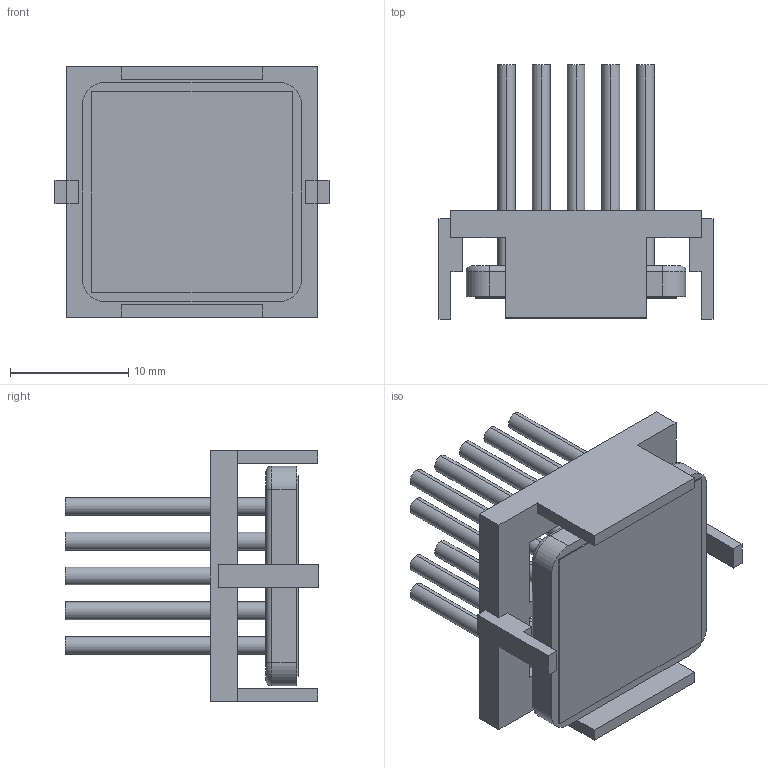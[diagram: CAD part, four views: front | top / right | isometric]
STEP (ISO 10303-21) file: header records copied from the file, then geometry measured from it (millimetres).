
FILE_DESCRIPTION (( 'STEP AP214' ), '1' );
FILE_NAME ('INM19002-20PCU-2.6BU.STEP', '2023-03-02T22:47:55', ( '' ), ( '' ), 'SwSTEP 2.0', 'SolidWorks 2020', '' );
FILE_SCHEMA (( 'AUTOMOTIVE_DESIGN' ));
Length unit declared in the file: millimetre
Products named in the file (1): INM19002-20PCU-2.6BU
Bounding box: 23.2 x 21.5 x 21.2 mm (x, y, z)
Volume: 2395.5 mm3; surface area: 4524.5 mm2
Topology: 3 solids, 3 shells, 133 faces, 310 edges, 204 vertices
Faces by surface type: plane 79, cylinder 50, torus 4
Entity records: 5323 total; most frequent: DIRECTION 682, CARTESIAN_POINT 648, ORIENTED_EDGE 620, EDGE_CURVE 310, AXIS2_PLACEMENT_3D 238, LINE 206, VECTOR 206, VERTEX_POINT 204
